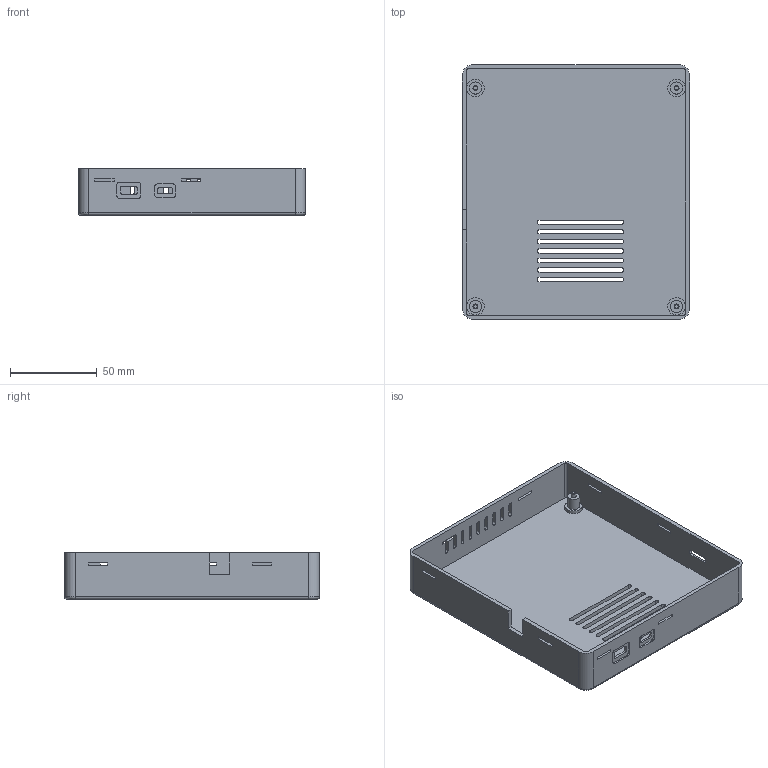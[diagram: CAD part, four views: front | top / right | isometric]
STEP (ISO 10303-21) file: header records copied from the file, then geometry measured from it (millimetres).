
FILE_DESCRIPTION(('Open CASCADE Model'),'2;1');
FILE_NAME('Open CASCADE Shape Model','2026-10-01T10:53:18',('Author'),( 'Open CASCADE'),'Open CASCADE STEP processor 7.9','Open CASCADE 7.9' ,'Unknown');
FILE_SCHEMA(('AUTOMOTIVE_DESIGN { 1 0 10303 214 1 1 1 1 }'));
Products named in the file (1): Open CASCADE STEP translator 7.9 1
Bounding box: 131 x 147 x 27 mm (x, y, z)
Volume: 74918.1 mm3; surface area: 67457.4 mm2
Topology: 1 solids, 1 shells, 688 faces, 1902 edges, 1264 vertices
Faces by surface type: plane 376, extrusion 193, cylinder 111, torus 4, cone 4
Full cylindrical faces by diameter (mm): 2.9 x4, 7 x4, 10 x4, 12.5 x4
Entity records: 50472 total; most frequent: CARTESIAN_POINT 15441, DIRECTION 5224, ORIENTED_EDGE 3804, PCURVE 3804, DEFINITIONAL_REPRESENTATION 3804, VECTOR 3590, LINE 3397, B_SPLINE_CURVE_WITH_KNOTS 2058
